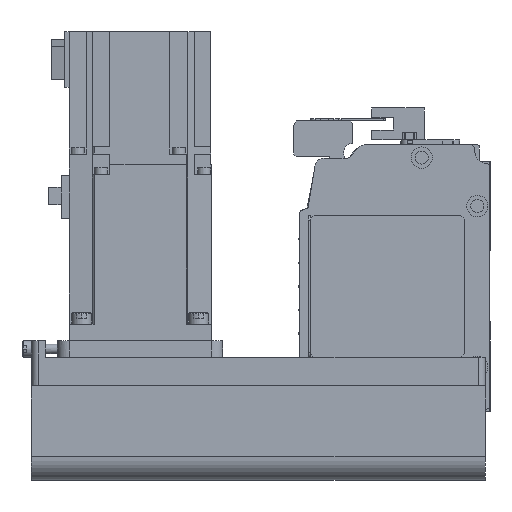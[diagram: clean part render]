
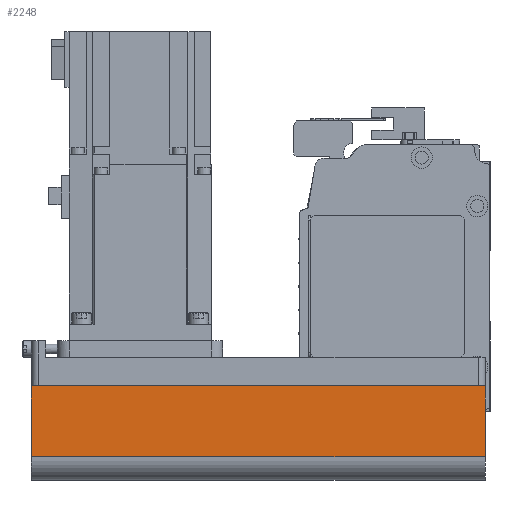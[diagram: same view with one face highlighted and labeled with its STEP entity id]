
A CAD part, left-side view. The second image highlights one B-rep face of the part: STEP entity #2248.
In plain terms, the highlighted planar face has unit normal (-1, 0, 0) as drawn and (0, -1, 0) by its records, which use the part's own axes.
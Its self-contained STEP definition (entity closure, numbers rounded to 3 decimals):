
#2248 = ADVANCED_FACE( '', ( #4637 ), #4638, .T. );
#4637 = FACE_OUTER_BOUND( '', #7029, .T. );
#4638 = PLANE( '', #7030 );
#7029 = EDGE_LOOP( '', ( #13196, #13197, #13198, #13199 ) );
#7030 = AXIS2_PLACEMENT_3D( '', #13200, #13201, #13202 );
#13196 = ORIENTED_EDGE( '', *, *, #15809, .F. );
#13197 = ORIENTED_EDGE( '', *, *, #15100, .F. );
#13198 = ORIENTED_EDGE( '', *, *, #15389, .T. );
#13199 = ORIENTED_EDGE( '', *, *, #14904, .T. );
#13200 = CARTESIAN_POINT( '', ( -192., -40., -12.1 ) );
#13201 = DIRECTION( '', ( 0., -1., 0. ) );
#13202 = DIRECTION( '', ( 0., 0., -1. ) );
#14904 = EDGE_CURVE( '', #18256, #18253, #18257, .T. );
#15100 = EDGE_CURVE( '', #18540, #18542, #18543, .T. );
#15389 = EDGE_CURVE( '', #18540, #18256, #18933, .T. );
#15809 = EDGE_CURVE( '', #18542, #18253, #19456, .T. );
#18253 = VERTEX_POINT( '', #22663 );
#18256 = VERTEX_POINT( '', #22666 );
#18257 = LINE( '', #22667, #22668 );
#18540 = VERTEX_POINT( '', #23058 );
#18542 = VERTEX_POINT( '', #23061 );
#18543 = LINE( '', #23062, #23063 );
#18933 = LINE( '', #23585, #23586 );
#19456 = LINE( '', #24292, #24293 );
#22663 = CARTESIAN_POINT( '', ( 0., -40., -42. ) );
#22666 = CARTESIAN_POINT( '', ( -192., -40., -42. ) );
#22667 = CARTESIAN_POINT( '', ( -192., -40., -42. ) );
#22668 = VECTOR( '', #26281, 1000. );
#23058 = CARTESIAN_POINT( '', ( -192., -40., -12.1 ) );
#23061 = CARTESIAN_POINT( '', ( 0., -40., -12.1 ) );
#23062 = CARTESIAN_POINT( '', ( -192., -40., -12.1 ) );
#23063 = VECTOR( '', #26489, 1000. );
#23585 = CARTESIAN_POINT( '', ( -192., -40., -12.1 ) );
#23586 = VECTOR( '', #26823, 1000. );
#24292 = CARTESIAN_POINT( '', ( 0., -40., -12.1 ) );
#24293 = VECTOR( '', #27259, 1000. );
#26281 = DIRECTION( '', ( 1., 0., 0. ) );
#26489 = DIRECTION( '', ( 1., 0., 0. ) );
#26823 = DIRECTION( '', ( 0., 0., -1. ) );
#27259 = DIRECTION( '', ( 0., 0., -1. ) );
